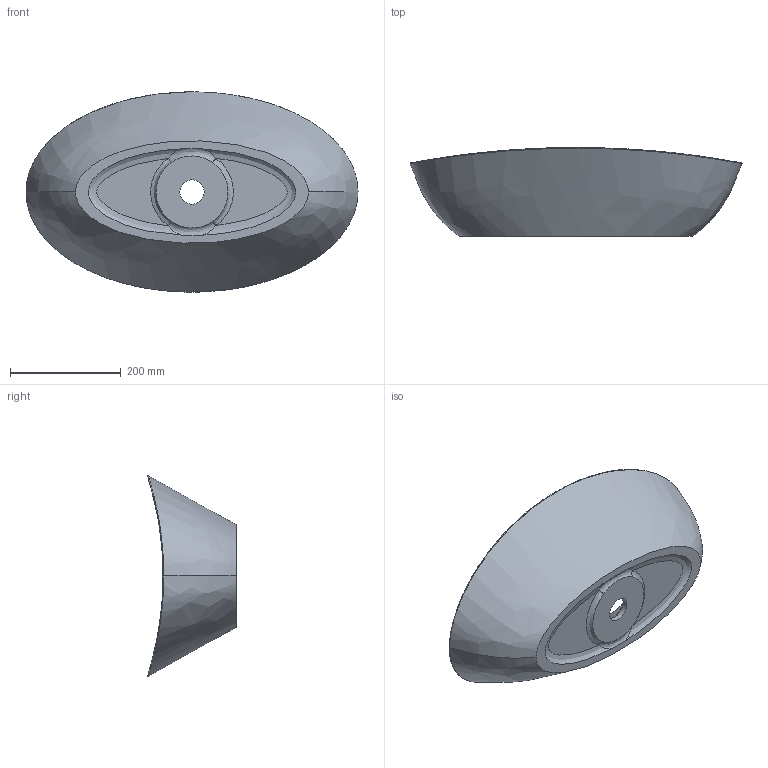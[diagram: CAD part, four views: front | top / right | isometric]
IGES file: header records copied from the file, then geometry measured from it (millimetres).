
Global section: file name: 7a81aac3-c8f8-423d-88f9-3e0efa882496.zip; native system: unknown; preprocessor: unknown; author: unknown; organization: unknown; date: 20200107.085107; units: millimetre
Bounding box: 599.15 x 160.07 x 361.36 mm (x, y, z)
Volume: 4934314.4 mm3; surface area: 527105.7 mm2
Topology: 1 solids, 1 shells, 24 faces, 60 edges, 38 vertices
Faces by surface type: bspline 24
